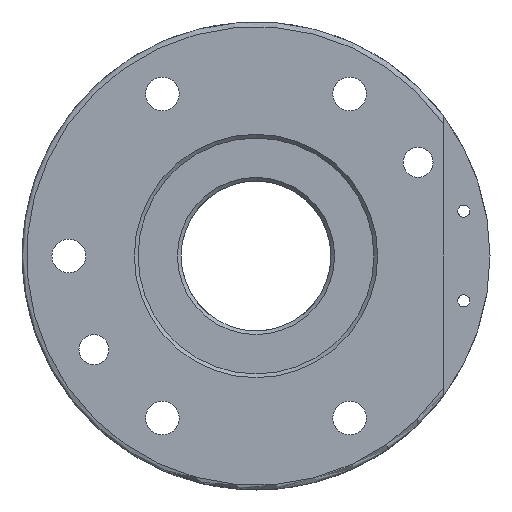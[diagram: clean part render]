
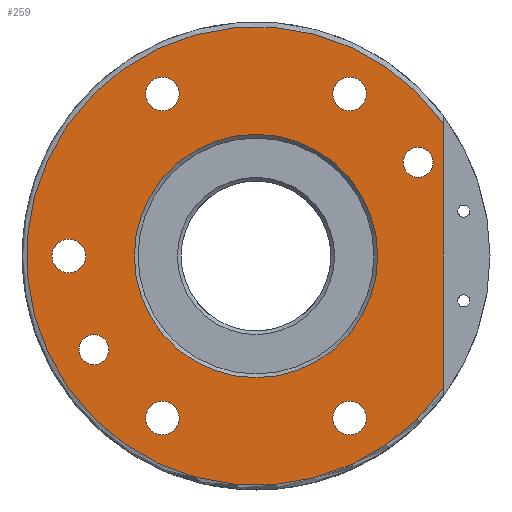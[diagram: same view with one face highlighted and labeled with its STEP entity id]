
A CAD part, front view. The second image highlights one B-rep face of the part: STEP entity #259.
In plain terms, the highlighted planar face has unit normal (0, -1, 0).
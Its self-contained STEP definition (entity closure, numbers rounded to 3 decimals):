
#73=CARTESIAN_POINT('',(50.0,0.,35.377));
#74=VERTEX_POINT('',#73);
#99=CARTESIAN_POINT('',(50.0,0.,-35.377));
#100=VERTEX_POINT('',#99);
#114=CARTESIAN_POINT('',(0.,0.,0.0));
#115=DIRECTION('',(0.0,1.0,0.0));
#116=DIRECTION('',(-1.0,0.0,0.0));
#117=AXIS2_PLACEMENT_3D('',#114,#115,#116);
#118=CIRCLE('',#117,61.25);
#119=EDGE_CURVE('',#100,#74,#118,.T.);
#130=CARTESIAN_POINT('',(50.0,0.,-35.377));
#131=DIRECTION('',(0.0,0.0,1.0));
#132=VECTOR('',#131,70.755);
#133=LINE('',#130,#132);
#134=EDGE_CURVE('',#100,#74,#133,.T.);
#162=CARTESIAN_POINT('',(-47.0,0.,0.0));
#163=DIRECTION('',(0.0,-1.0,0.0));
#164=DIRECTION('',(0.0,0.0,-1.0));
#165=AXIS2_PLACEMENT_3D('',#162,#163,#164);
#166=PLANE('',#165);
#167=ORIENTED_EDGE('',*,*,#119,.F.);
#168=ORIENTED_EDGE('',*,*,#134,.T.);
#169=EDGE_LOOP('',(#167,#168));
#170=FACE_OUTER_BOUND('',#169,.T.);
#171=CARTESIAN_POINT('',(-32.5,0.,0.));
#172=VERTEX_POINT('',#171);
#173=CARTESIAN_POINT('',(0.,0.,0.0));
#174=DIRECTION('',(0.0,-1.0,0.0));
#175=DIRECTION('',(1.0,0.0,0.0));
#176=AXIS2_PLACEMENT_3D('',#173,#174,#175);
#177=CIRCLE('',#176,32.5);
#178=EDGE_CURVE('',#172,#172,#177,.T.);
#179=ORIENTED_EDGE('',*,*,#178,.F.);
#180=EDGE_LOOP('',(#179));
#181=FACE_BOUND('',#180,.T.);
#182=CARTESIAN_POINT('',(20.5,0.,-43.301));
#183=VERTEX_POINT('',#182);
#184=CARTESIAN_POINT('',(25.,0.,-43.301));
#185=DIRECTION('',(0.0,1.0,0.0));
#186=DIRECTION('',(1.0,0.0,0.0));
#187=AXIS2_PLACEMENT_3D('',#184,#185,#186);
#188=CIRCLE('',#187,4.5);
#189=EDGE_CURVE('',#183,#183,#188,.T.);
#190=ORIENTED_EDGE('',*,*,#189,.T.);
#191=EDGE_LOOP('',(#190));
#192=FACE_BOUND('',#191,.T.);
#193=CARTESIAN_POINT('',(-29.5,0.,-43.301));
#194=VERTEX_POINT('',#193);
#195=CARTESIAN_POINT('',(-25.,0.0,-43.301));
#196=DIRECTION('',(0.0,1.0,0.0));
#197=DIRECTION('',(1.0,0.0,0.0));
#198=AXIS2_PLACEMENT_3D('',#195,#196,#197);
#199=CIRCLE('',#198,4.5);
#200=EDGE_CURVE('',#194,#194,#199,.T.);
#201=ORIENTED_EDGE('',*,*,#200,.T.);
#202=EDGE_LOOP('',(#201));
#203=FACE_BOUND('',#202,.T.);
#204=CARTESIAN_POINT('',(-54.5,0.,0.));
#205=VERTEX_POINT('',#204);
#206=CARTESIAN_POINT('',(-50.,0.0,0.));
#207=DIRECTION('',(0.0,1.0,0.0));
#208=DIRECTION('',(1.0,0.0,0.0));
#209=AXIS2_PLACEMENT_3D('',#206,#207,#208);
#210=CIRCLE('',#209,4.5);
#211=EDGE_CURVE('',#205,#205,#210,.T.);
#212=ORIENTED_EDGE('',*,*,#211,.T.);
#213=EDGE_LOOP('',(#212));
#214=FACE_BOUND('',#213,.T.);
#215=CARTESIAN_POINT('',(-29.5,0.,43.301));
#216=VERTEX_POINT('',#215);
#217=CARTESIAN_POINT('',(-25.,0.0,43.301));
#218=DIRECTION('',(0.0,1.0,0.0));
#219=DIRECTION('',(1.0,0.0,0.0));
#220=AXIS2_PLACEMENT_3D('',#217,#218,#219);
#221=CIRCLE('',#220,4.5);
#222=EDGE_CURVE('',#216,#216,#221,.T.);
#223=ORIENTED_EDGE('',*,*,#222,.T.);
#224=EDGE_LOOP('',(#223));
#225=FACE_BOUND('',#224,.T.);
#226=CARTESIAN_POINT('',(20.5,0.,43.301));
#227=VERTEX_POINT('',#226);
#228=CARTESIAN_POINT('',(25.,0.,43.301));
#229=DIRECTION('',(0.0,1.0,0.0));
#230=DIRECTION('',(1.0,0.0,0.0));
#231=AXIS2_PLACEMENT_3D('',#228,#229,#230);
#232=CIRCLE('',#231,4.5);
#233=EDGE_CURVE('',#227,#227,#232,.T.);
#234=ORIENTED_EDGE('',*,*,#233,.T.);
#235=EDGE_LOOP('',(#234));
#236=FACE_BOUND('',#235,.T.);
#237=CARTESIAN_POINT('',(39.301,0.,25.));
#238=VERTEX_POINT('',#237);
#239=CARTESIAN_POINT('',(43.301,0.,25.));
#240=DIRECTION('',(0.0,1.0,0.0));
#241=DIRECTION('',(1.0,0.0,0.0));
#242=AXIS2_PLACEMENT_3D('',#239,#240,#241);
#243=CIRCLE('',#242,4.0);
#244=EDGE_CURVE('',#238,#238,#243,.T.);
#245=ORIENTED_EDGE('',*,*,#244,.T.);
#246=EDGE_LOOP('',(#245));
#247=FACE_BOUND('',#246,.T.);
#248=CARTESIAN_POINT('',(-47.301,0.,-25.0));
#249=VERTEX_POINT('',#248);
#250=CARTESIAN_POINT('',(-43.301,0.0,-25.0));
#251=DIRECTION('',(0.0,1.0,0.0));
#252=DIRECTION('',(1.0,0.0,0.0));
#253=AXIS2_PLACEMENT_3D('',#250,#251,#252);
#254=CIRCLE('',#253,4.0);
#255=EDGE_CURVE('',#249,#249,#254,.T.);
#256=ORIENTED_EDGE('',*,*,#255,.T.);
#257=EDGE_LOOP('',(#256));
#258=FACE_BOUND('',#257,.T.);
#259=ADVANCED_FACE('',(#170,#181,#192,#203,#214,#225,#236,#247,#258),#166,.T.);
